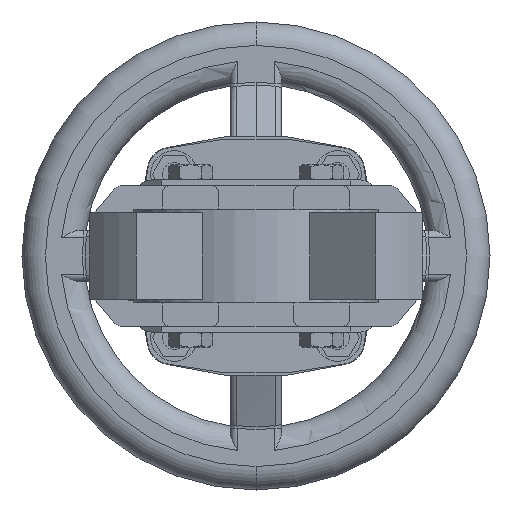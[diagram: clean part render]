
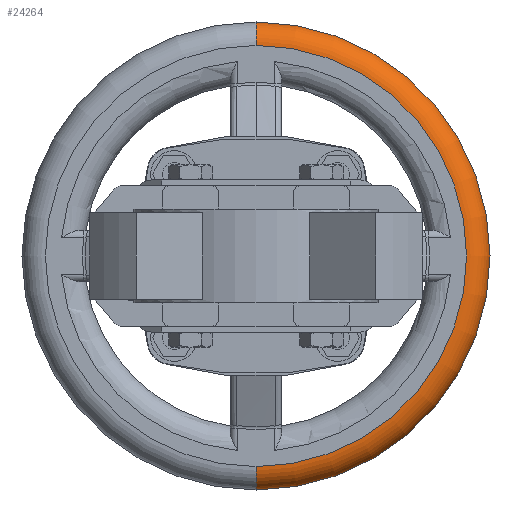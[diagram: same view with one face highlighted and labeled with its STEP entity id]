
A CAD part, front view. The second image highlights one B-rep face of the part: STEP entity #24264.
In plain terms, the highlighted toroidal (fillet/blend) face has major radius 90 mm and minor radius 10 mm.
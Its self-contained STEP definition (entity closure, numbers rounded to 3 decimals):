
#24141 = EDGE_CURVE ( 'NONE', #24179, #24143, #34010, .T. ) ;
#24143 = VERTEX_POINT ( 'NONE', #34123 ) ;
#24175 = EDGE_CURVE ( 'NONE', #24177, #24179, #34187, .T. ) ;
#24177 = VERTEX_POINT ( 'NONE', #34178 ) ;
#24179 = VERTEX_POINT ( 'NONE', #34176 ) ;
#24193 = EDGE_CURVE ( 'NONE', #24177, #24342, #34140, .T. ) ;
#24264 = ADVANCED_FACE ( 'NONE', ( #34423 ), #34421, .T. ) ;
#24267 = EDGE_LOOP ( 'NONE', ( #24269, #24279, #24336, #24345 ) ) ;
#24269 = ORIENTED_EDGE ( 'NONE', *, *, #24175, .T. ) ;
#24279 = ORIENTED_EDGE ( 'NONE', *, *, #24141, .T. ) ;
#24336 = ORIENTED_EDGE ( 'NONE', *, *, #24338, .F. ) ;
#24338 = EDGE_CURVE ( 'NONE', #24342, #24143, #34643, .T. ) ;
#24342 = VERTEX_POINT ( 'NONE', #34637 ) ;
#24345 = ORIENTED_EDGE ( 'NONE', *, *, #24193, .F. ) ;
#34010 = CIRCLE ( 'NONE', #34127, 10. ) ;
#34123 = CARTESIAN_POINT ( 'NONE',  ( 0., 689.9, -100. ) ) ;
#34124 = DIRECTION ( 'NONE',  ( 0., 0., -1. ) ) ;
#34125 = DIRECTION ( 'NONE',  ( 1., 0., 0. ) ) ;
#34126 = CARTESIAN_POINT ( 'NONE',  ( 0., 689.9, -90. ) ) ;
#34127 = AXIS2_PLACEMENT_3D ( 'NONE', #34126, #34125, #34124 ) ;
#34136 = DIRECTION ( 'NONE',  ( 0., 0., 1. ) ) ;
#34137 = DIRECTION ( 'NONE',  ( -1., 0., 0. ) ) ;
#34138 = CARTESIAN_POINT ( 'NONE',  ( 0., 689.9, 90. ) ) ;
#34139 = AXIS2_PLACEMENT_3D ( 'NONE', #34138, #34137, #34136 ) ;
#34140 = CIRCLE ( 'NONE', #34139, 10. ) ;
#34176 = CARTESIAN_POINT ( 'NONE',  ( 0., 679.9, -90. ) ) ;
#34178 = CARTESIAN_POINT ( 'NONE',  ( 0., 679.9, 90. ) ) ;
#34180 = DIRECTION ( 'NONE',  ( 0., 0., 1. ) ) ;
#34182 = DIRECTION ( 'NONE',  ( 0., 1., 0. ) ) ;
#34184 = CARTESIAN_POINT ( 'NONE',  ( 0., 679.9, 0. ) ) ;
#34185 = AXIS2_PLACEMENT_3D ( 'NONE', #34184, #34182, #34180 ) ;
#34187 = CIRCLE ( 'NONE', #34185, 90. ) ;
#34409 = DIRECTION ( 'NONE',  ( 0., 0., 1. ) ) ;
#34411 = DIRECTION ( 'NONE',  ( 0., 1., 0. ) ) ;
#34413 = CARTESIAN_POINT ( 'NONE',  ( 0., 689.9, 0. ) ) ;
#34414 = AXIS2_PLACEMENT_3D ( 'NONE', #34413, #34411, #34409 ) ;
#34421 = TOROIDAL_SURFACE ( 'NONE', #34414, 90., 10. ) ;
#34423 = FACE_OUTER_BOUND ( 'NONE', #24267, .T. ) ;
#34637 = CARTESIAN_POINT ( 'NONE',  ( 0., 689.9, 100. ) ) ;
#34639 = DIRECTION ( 'NONE',  ( 0., 0., 1. ) ) ;
#34640 = DIRECTION ( 'NONE',  ( 0., 1., 0. ) ) ;
#34641 = CARTESIAN_POINT ( 'NONE',  ( 0., 689.9, 0. ) ) ;
#34642 = AXIS2_PLACEMENT_3D ( 'NONE', #34641, #34640, #34639 ) ;
#34643 = CIRCLE ( 'NONE', #34642, 100. ) ;
